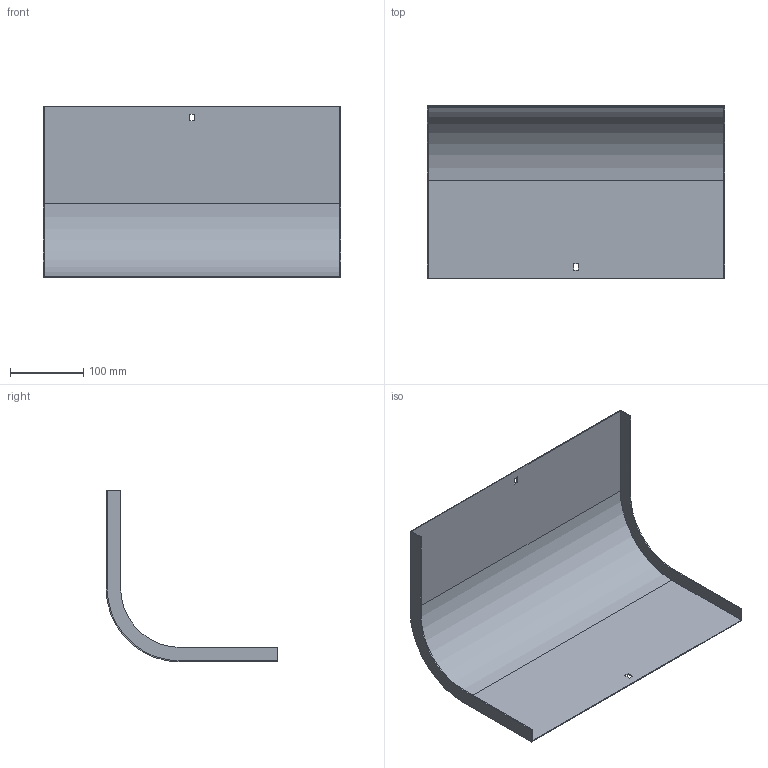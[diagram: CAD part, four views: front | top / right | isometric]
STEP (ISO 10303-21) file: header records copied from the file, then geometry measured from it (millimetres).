
FILE_DESCRIPTION (( 'STEP AP214' ), '1' );
FILE_NAME ('33G1D400.step', '2025-02-21T12:43:55', ( '' ), ( '' ), 'SwSTEP 2.0', 'SolidWorks 2023', '' );
FILE_SCHEMA (( 'AUTOMOTIVE_DESIGN' ));
Length unit declared in the file: millimetre
Products named in the file (1): 33G1D400
Bounding box: 407 x 235.5 x 235.5 mm (x, y, z)
Volume: 282840.4 mm3; surface area: 379737.1 mm2
Topology: 1 solids, 1 shells, 26 faces, 72 edges, 48 vertices
Faces by surface type: plane 22, cylinder 4
Entity records: 855 total; most frequent: CARTESIAN_POINT 147, ORIENTED_EDGE 144, DIRECTION 134, EDGE_CURVE 72, VECTOR 64, LINE 64, VERTEX_POINT 48, AXIS2_PLACEMENT_3D 35
